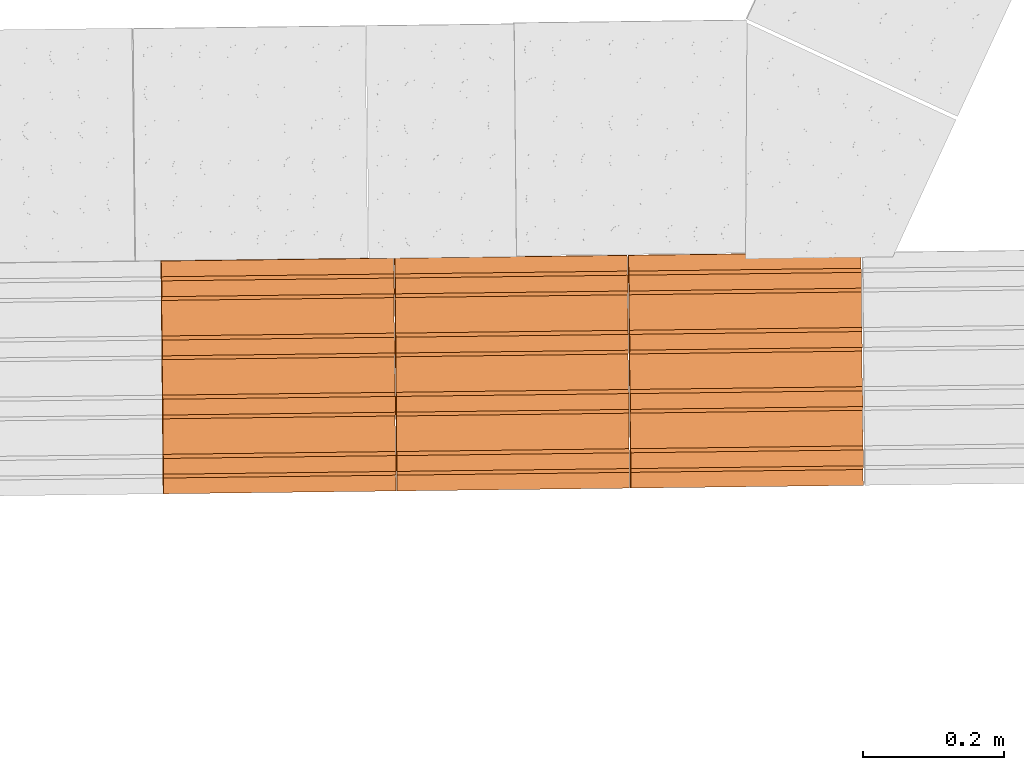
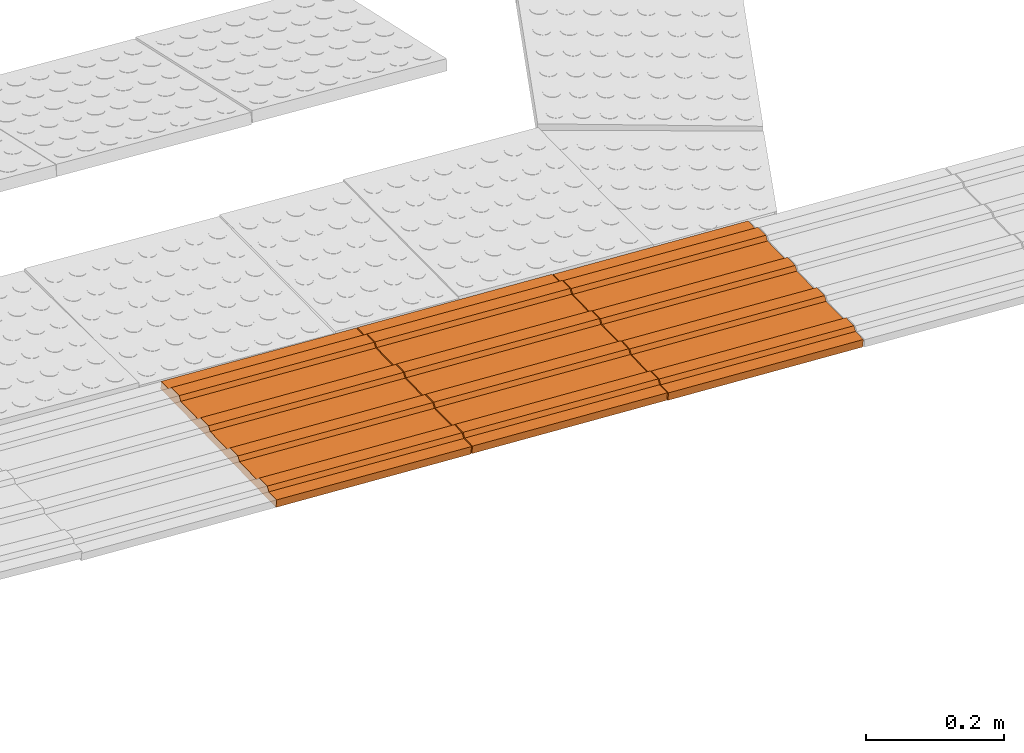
# One storey, part 180 of 237: 3 proxies.
"""IFC2X3 building model written with IfcOpenShell, lengths in millimetres."""

from ifc_helpers import new_model, entity, si_unit, converted_unit, derived_unit, money_unit, direction, frame, origin_with_axes, place, context, subcontext, project, spatial, open_shell, surface_model, source, transform, mapped, type_object, element, save


model = new_model("IFC2X3")

# Units and contexts
model_context = context("Model", 3, precision=0.01, world=origin_with_axes(), true_north=direction((0.0, 1.0)))
body_context = subcontext(model_context, "Body", "Model", "MODEL_VIEW")
ifc_project = project(units=[si_unit("LENGTHUNIT", "METRE", prefix="MILLI"), si_unit("AREAUNIT", "SQUARE_METRE"), si_unit("VOLUMEUNIT", "CUBIC_METRE"), converted_unit("PLANEANGLEUNIT", "DEGREE", entity("IfcPlaneAngleMeasure", 0.0174532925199), si_unit("PLANEANGLEUNIT", "RADIAN"), dimensions=[0, 0, 0, 0, 0, 0, 0]), money_unit("USD"), converted_unit("TIMEUNIT", "Year", entity("IfcTimeMeasure", 31556926.0), si_unit("TIMEUNIT", "SECOND"), dimensions=[0, 0, 1, 0, 0, 0, 0]), si_unit("MASSUNIT", "GRAM", prefix="KILO"), si_unit("THERMODYNAMICTEMPERATUREUNIT", "DEGREE_CELSIUS"), si_unit("LUMINOUSINTENSITYUNIT", "LUMEN"), si_unit("ENERGYUNIT", "JOULE", prefix="MEGA"), derived_unit("THERMALCONDUCTANCEUNIT", [(si_unit("POWERUNIT", "WATT"), 1), (si_unit("LENGTHUNIT", "METRE"), -1), (si_unit("THERMODYNAMICTEMPERATUREUNIT", "KELVIN"), -1)]), derived_unit("SPECIFICHEATCAPACITYUNIT", [(si_unit("ENERGYUNIT", "JOULE"), 1), (si_unit("MASSUNIT", "GRAM", prefix="KILO"), -1), (si_unit("THERMODYNAMICTEMPERATUREUNIT", "KELVIN"), -1)]), derived_unit("MASSDENSITYUNIT", [(si_unit("MASSUNIT", "GRAM", prefix="KILO"), 1), (si_unit("VOLUMEUNIT", "CUBIC_METRE"), -1)])], contexts=[model_context])

# Site, building, storey
site_placement = place(None, origin_with_axes())
site = spatial("IfcSite", under=ifc_project, at=site_placement, Name="Local", CompositionType="ELEMENT")
building_placement = place(site_placement, origin_with_axes())
building = spatial("IfcBuilding", under=site, at=building_placement, Name="Construção", CompositionType="ELEMENT")
storey_placement = place(building_placement, origin_with_axes())
storey = spatial("IfcBuildingStorey", under=building, at=storey_placement, Name="Pavimento Térreo", CompositionType="ELEMENT", Elevation=0.0)

# Proxies
building_element_proxy_type = type_object("IfcBuildingElementProxyType", Name="Piso Direcional 27", PredefinedType="NOTDEFINED")
shared_shape = source(origin_with_axes(), body_context, "Body", "SurfaceModel", [
    surface_model("IfcShellBasedSurfaceModel", [(-0.395892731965, -47.0888435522, 5.66152983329), (328.800243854, -47.0888435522, 28.6811661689), (328.349100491, -41.2663671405, 35.1328168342), (-0.847036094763, -41.2663671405, 12.1131804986)], [open_shell([[[0, 1, 2, 3]]])]),
    surface_model("IfcShellBasedSurfaceModel", [(329.471050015, -153.76061908, 19.08819113), (330.274423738, 176.038353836, 7.59941164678), (329.344904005, 176.503680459, 20.8921631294), (329.290437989, 154.144428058, 21.6710634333), (328.812061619, 148.787278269, 28.5121642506), (328.757595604, 126.428025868, 29.2910645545), (329.208738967, 120.605549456, 22.8394138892), (329.086190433, 70.2972315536, 24.5919395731), (328.607814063, 64.9400817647, 31.4330403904), (328.553348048, 42.5808293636, 32.2119406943), (329.00449141, 36.758352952, 25.760290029), (328.881942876, -13.5499649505, 27.5128157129), (328.403566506, -18.9071147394, 34.3539165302), (328.349100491, -41.2663671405, 35.1328168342), (328.800243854, -47.0888435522, 28.6811661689), (328.67769532, -97.3971614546, 30.4336918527), (328.19931895, -102.754311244, 37.27479267), (328.144852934, -125.113563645, 38.053692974), (328.595996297, -130.936040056, 31.6020423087), (328.541530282, -153.295292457, 32.3809426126)], [open_shell([[[0, 1, 2, 3, 4, 5, 6, 7, 8, 9, 10, 11, 12, 13, 14, 15, 16, 17, 18, 19]]])]),
    surface_model("IfcShellBasedSurfaceModel", [(-0.792570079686, -18.9071147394, 11.3342801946), (328.403566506, -18.9071147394, 34.3539165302), (328.881942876, -13.5499649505, 27.5128157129), (-0.31419370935, -13.5499649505, 4.49317937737)], [open_shell([[[0, 1, 2, 3]]])]),
    surface_model("IfcShellBasedSurfaceModel", [(-0.996817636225, -102.754311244, 14.2551563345), (328.19931895, -102.754311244, 37.27479267), (328.67769532, -97.3971614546, 30.4336918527), (-0.518441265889, -97.3971614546, 7.41405551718)], [open_shell([[[0, 1, 2, 3]]])]),
    surface_model("IfcShellBasedSurfaceModel", [(-0.588322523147, 64.9400817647, 8.41340405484), (328.607814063, 64.9400817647, 31.4330403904), (329.086190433, 70.2972315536, 24.5919395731), (-0.109946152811, 70.2972315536, 1.57230323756)], [open_shell([[[0, 1, 2, 3]]])]),
    surface_model("IfcShellBasedSurfaceModel", [(-0.191645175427, 36.758352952, 2.74065369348), (329.00449141, 36.758352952, 25.760290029), (328.553348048, 42.5808293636, 32.2119406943), (-0.642788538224, 42.5808293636, 9.19230435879)], [open_shell([[[0, 1, 2, 3]]])]),
    surface_model("IfcShellBasedSurfaceModel", [(-0.600140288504, -130.936040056, 8.5824059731), (328.595996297, -130.936040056, 31.6020423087), (328.144852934, -125.113563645, 38.053692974), (-1.0512836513, -125.113563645, 15.0340566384)], [open_shell([[[0, 1, 2, 3]]])]),
    surface_model("IfcShellBasedSurfaceModel", [(0.148767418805, 176.503680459, -2.1274732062), (0.0943014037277, 154.144428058, -1.34857290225), (329.290437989, 154.144428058, 21.6710634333), (329.344904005, 176.503680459, 20.8921631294)], [open_shell([[[0, 1, 2, 3]]])]),
    surface_model("IfcShellBasedSurfaceModel", [(0.0126023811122, 120.605549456, -0.180222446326), (329.208738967, 120.605549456, 22.8394138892), (328.757595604, 126.428025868, 29.2910645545), (-0.438540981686, 126.428025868, 6.27142821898)], [open_shell([[[0, 1, 2, 3]]])]),
    surface_model("IfcShellBasedSurfaceModel", [(-0.384074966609, 148.787278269, 5.49252791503), (328.812061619, 148.787278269, 28.5121642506), (329.290437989, 154.144428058, 21.6710634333), (0.0943014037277, 154.144428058, -1.34857290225)], [open_shell([[[0, 1, 2, 3]]])]),
    surface_model("IfcShellBasedSurfaceModel", [(-0.191645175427, 36.758352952, 2.74065369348), (-0.31419370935, -13.5499649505, 4.49317937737), (328.881942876, -13.5499649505, 27.5128157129), (329.00449141, 36.758352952, 25.760290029)], [open_shell([[[0, 1, 2, 3]]])]),
    surface_model("IfcShellBasedSurfaceModel", [(0.0126023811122, 120.605549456, -0.180222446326), (-0.109946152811, 70.2972315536, 1.57230323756), (329.086190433, 70.2972315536, 24.5919395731), (329.208738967, 120.605549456, 22.8394138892)], [open_shell([[[0, 1, 2, 3]]])]),
    surface_model("IfcShellBasedSurfaceModel", [(-0.384074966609, 148.787278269, 5.49252791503), (-0.438540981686, 126.428025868, 6.27142821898), (328.757595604, 126.428025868, 29.2910645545), (328.812061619, 148.787278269, 28.5121642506)], [open_shell([[[0, 1, 2, 3]]])]),
    surface_model("IfcShellBasedSurfaceModel", [(0.0126023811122, 120.605549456, -0.180222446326), (-0.438540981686, 126.428025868, 6.27142821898), (-0.384074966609, 148.787278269, 5.49252791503), (0.0943014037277, 154.144428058, -1.34857290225), (0.148767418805, 176.503680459, -2.1274732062), (1.07828715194, 176.038353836, -15.4202246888), (0.274913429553, -153.76061908, -3.93144520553), (-0.654606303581, -153.295292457, 9.36130627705), (-0.600140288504, -130.936040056, 8.5824059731), (-1.0512836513, -125.113563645, 15.0340566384), (-0.996817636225, -102.754311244, 14.2551563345), (-0.518441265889, -97.3971614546, 7.41405551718), (-0.395892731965, -47.0888435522, 5.66152983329), (-0.847036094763, -41.2663671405, 12.1131804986), (-0.792570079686, -18.9071147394, 11.3342801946), (-0.31419370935, -13.5499649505, 4.49317937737), (-0.191645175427, 36.758352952, 2.74065369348), (-0.642788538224, 42.5808293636, 9.19230435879), (-0.588322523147, 64.9400817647, 8.41340405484), (-0.109946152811, 70.2972315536, 1.57230323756)], [open_shell([[[0, 1, 2, 3, 4, 5, 6, 7, 8, 9, 10, 11, 12, 13, 14, 15, 16, 17, 18, 19]]])]),
    surface_model("IfcShellBasedSurfaceModel", [(328.349100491, -41.2663671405, 35.1328168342), (328.403566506, -18.9071147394, 34.3539165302), (-0.792570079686, -18.9071147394, 11.3342801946), (-0.847036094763, -41.2663671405, 12.1131804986)], [open_shell([[[0, 1, 2, 3]]])]),
    surface_model("IfcShellBasedSurfaceModel", [(-0.395892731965, -47.0888435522, 5.66152983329), (-0.518441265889, -97.3971614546, 7.41405551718), (328.67769532, -97.3971614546, 30.4336918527), (328.800243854, -47.0888435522, 28.6811661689)], [open_shell([[[0, 1, 2, 3]]])]),
    surface_model("IfcShellBasedSurfaceModel", [(328.553348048, 42.5808293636, 32.2119406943), (328.607814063, 64.9400817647, 31.4330403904), (-0.588322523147, 64.9400817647, 8.41340405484), (-0.642788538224, 42.5808293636, 9.19230435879)], [open_shell([[[0, 1, 2, 3]]])]),
    surface_model("IfcShellBasedSurfaceModel", [(328.144852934, -125.113563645, 38.053692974), (328.19931895, -102.754311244, 37.27479267), (-0.996817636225, -102.754311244, 14.2551563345), (-1.0512836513, -125.113563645, 15.0340566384)], [open_shell([[[0, 1, 2, 3]]])]),
    surface_model("IfcShellBasedSurfaceModel", [(330.274423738, 176.038353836, 7.59941164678), (1.07828715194, 176.038353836, -15.4202246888), (0.148767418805, 176.503680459, -2.1274732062), (329.344904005, 176.503680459, 20.8921631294)], [open_shell([[[0, 1, 2, 3]]])]),
    surface_model("IfcShellBasedSurfaceModel", [(329.471050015, -153.76061908, 19.08819113), (0.274913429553, -153.76061908, -3.93144520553), (1.07828715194, 176.038353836, -15.4202246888), (330.274423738, 176.038353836, 7.59941164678)], [open_shell([[[0, 1, 2, 3]]])]),
    surface_model("IfcShellBasedSurfaceModel", [(328.541530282, -153.295292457, 32.3809426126), (328.595996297, -130.936040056, 31.6020423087), (-0.600140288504, -130.936040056, 8.5824059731), (-0.654606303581, -153.295292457, 9.36130627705)], [open_shell([[[0, 1, 2, 3]]])]),
    surface_model("IfcShellBasedSurfaceModel", [(0.274913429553, -153.76061908, -3.93144520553), (329.471050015, -153.76061908, 19.08819113), (328.541530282, -153.295292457, 32.3809426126), (-0.654606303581, -153.295292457, 9.36130627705)], [open_shell([[[0, 1, 2, 3]]])]),
])
for number, where, z_axis, x_axis, name in (
    (1, (53157.4635087, 36693.4828937, -1741.66659005), (0.0, 0.0, 1.0), (-0.999926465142, -0.012127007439, 0.0), "Objeto-0055"),
    (2, (53488.3599604, 36697.4959726, -1764.54760004), (0.0, 0.0, 1.0), (-0.999926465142, -0.012127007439, 0.0), "Objeto-0055"),
    (3, (53819.5178286, 36701.5122218, -1788.47030402), (0.0, 0.0, 1.0), (-0.999926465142, -0.012127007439, 0.0), "Objeto-0055"),
):
    element("IfcBuildingElementProxy", number, at=place(storey_placement, frame(where, z_axis=z_axis, x_axis=x_axis)), inside=storey, type_object=building_element_proxy_type, Name=name, context=body_context, shape_type="MappedRepresentation", body=[
        mapped(shared_shape, transform((0.0, 0.0, 0.0))),
    ])

save(model, "model.ifc")
